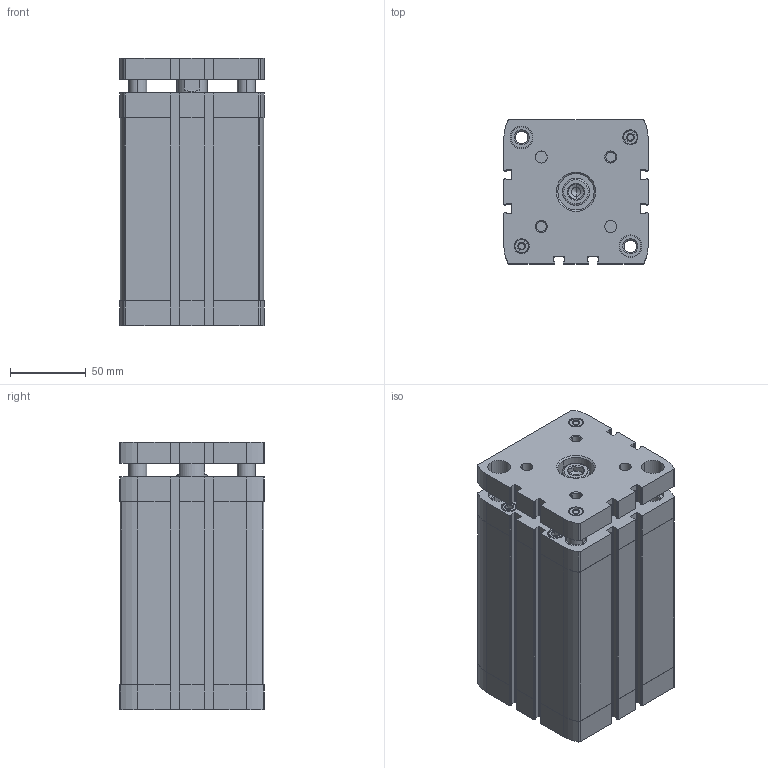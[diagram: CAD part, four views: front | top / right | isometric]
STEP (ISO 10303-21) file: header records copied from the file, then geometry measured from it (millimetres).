
FILE_DESCRIPTION (( 'STEP AP203' ), '1' );
FILE_NAME ('CCNG80-100.STEP', '2017-04-20T17:50:59', ( '' ), ( '' ), 'SwSTEP 2.0', 'SolidWorks 2016', '' );
FILE_SCHEMA (( 'CONFIG_CONTROL_DESIGN' ));
Length unit declared in the file: millimetre
Products named in the file (3): CCNG-80-100----(KS); CCNG80-100; CCNG-80-100----(Z)
Assembly tree (2 placements, depth 2):
  CCNG80-100
    CCNG-80-100----(Z)
    CCNG-80-100----(KS)
Bounding box: 95.5 x 95.5 x 176.9 mm (x, y, z)
Volume: 950621 mm3; surface area: 215814.4 mm2
Topology: 2 solids, 4 shells, 749 faces, 1954 edges, 1251 vertices
Faces by surface type: plane 319, cylinder 280, cone 144, bspline 6
Entity records: 23865 total; most frequent: CARTESIAN_POINT 4725, DIRECTION 4110, ORIENTED_EDGE 3872, EDGE_CURVE 1936, AXIS2_PLACEMENT_3D 1520, VERTEX_POINT 1251, LINE 1070, VECTOR 1070
